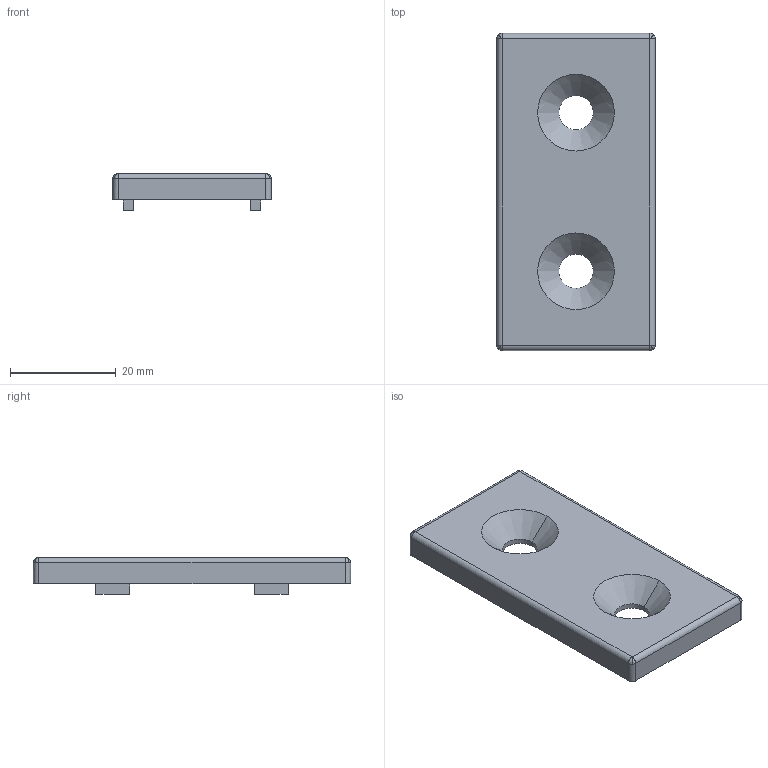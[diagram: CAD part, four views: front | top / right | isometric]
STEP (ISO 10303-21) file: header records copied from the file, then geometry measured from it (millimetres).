
FILE_DESCRIPTION (( 'STEP AP203' ), '1' );
FILE_NAME ('DEC3060A.STEP', '2020-05-29T06:24:51', ( '' ), ( '' ), 'SwSTEP 2.0', 'SolidWorks 2017', '' );
FILE_SCHEMA (( 'CONFIG_CONTROL_DESIGN' ));
Length unit declared in the file: millimetre
Products named in the file (1): DEC3060A
Bounding box: 30 x 60 x 7 mm (x, y, z)
Volume: 4756 mm3; surface area: 5122.8 mm2
Topology: 1 solids, 1 shells, 57 faces, 136 edges, 76 vertices
Faces by surface type: plane 25, cylinder 16, bspline 8, cone 8
Entity records: 1739 total; most frequent: CARTESIAN_POINT 382, DIRECTION 276, ORIENTED_EDGE 256, EDGE_CURVE 128, AXIS2_PLACEMENT_3D 98, LINE 80, VECTOR 80, VERTEX_POINT 76
